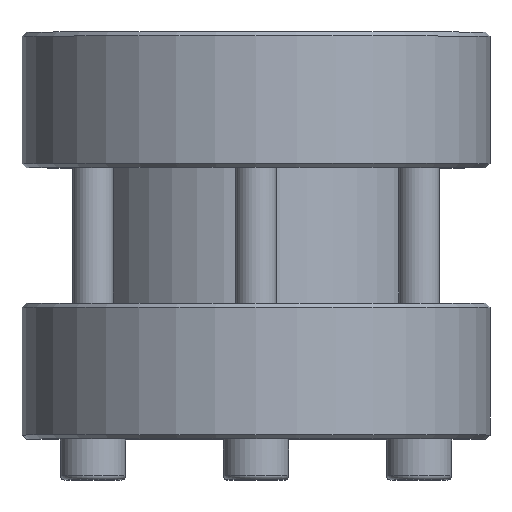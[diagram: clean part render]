
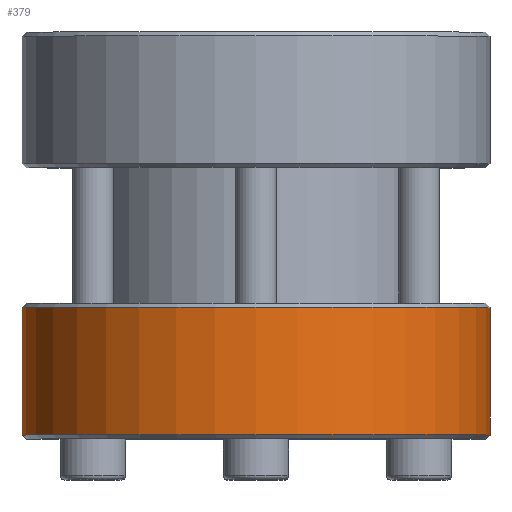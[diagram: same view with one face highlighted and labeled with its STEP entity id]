
A CAD part, top view. The second image highlights one B-rep face of the part: STEP entity #379.
In plain terms, the highlighted cylindrical face has radius 57.5 mm (diameter 115 mm), a full revolution.
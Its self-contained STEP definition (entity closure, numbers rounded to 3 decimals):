
#379 = ADVANCED_FACE( '', ( #623, #624 ), #625, .T. );
#623 = FACE_OUTER_BOUND( '', #793, .T. );
#624 = FACE_OUTER_BOUND( '', #794, .T. );
#625 = CYLINDRICAL_SURFACE( '', #795, 57.5 );
#793 = EDGE_LOOP( '', ( #1062 ) );
#794 = EDGE_LOOP( '', ( #1063 ) );
#795 = AXIS2_PLACEMENT_3D( '', #1064, #1065, #1066 );
#1062 = ORIENTED_EDGE( '', *, *, #1360, .T. );
#1063 = ORIENTED_EDGE( '', *, *, #1361, .T. );
#1064 = CARTESIAN_POINT( '', ( 0., -60., 0. ) );
#1065 = DIRECTION( '', ( 0., 1., 0. ) );
#1066 = DIRECTION( '', ( 0., 0., -1. ) );
#1360 = EDGE_CURVE( '', #1537, #1537, #1538, .T. );
#1361 = EDGE_CURVE( '', #1539, #1539, #1540, .T. );
#1537 = VERTEX_POINT( '', #1697 );
#1538 = CIRCLE( '', #1698, 57.5 );
#1539 = VERTEX_POINT( '', #1699 );
#1540 = CIRCLE( '', #1700, 57.5 );
#1697 = CARTESIAN_POINT( '', ( 0., 32.333, -57.5 ) );
#1698 = AXIS2_PLACEMENT_3D( '', #1829, #1830, #1831 );
#1699 = CARTESIAN_POINT( '', ( 0., 1., 57.5 ) );
#1700 = AXIS2_PLACEMENT_3D( '', #1832, #1833, #1834 );
#1829 = CARTESIAN_POINT( '', ( 0., 32.333, 0. ) );
#1830 = DIRECTION( '', ( 0., -1., 0. ) );
#1831 = DIRECTION( '', ( 0., 0., -1. ) );
#1832 = CARTESIAN_POINT( '', ( 0., 1., 0. ) );
#1833 = DIRECTION( '', ( 0., 1., 0. ) );
#1834 = DIRECTION( '', ( 0., 0., 1. ) );
